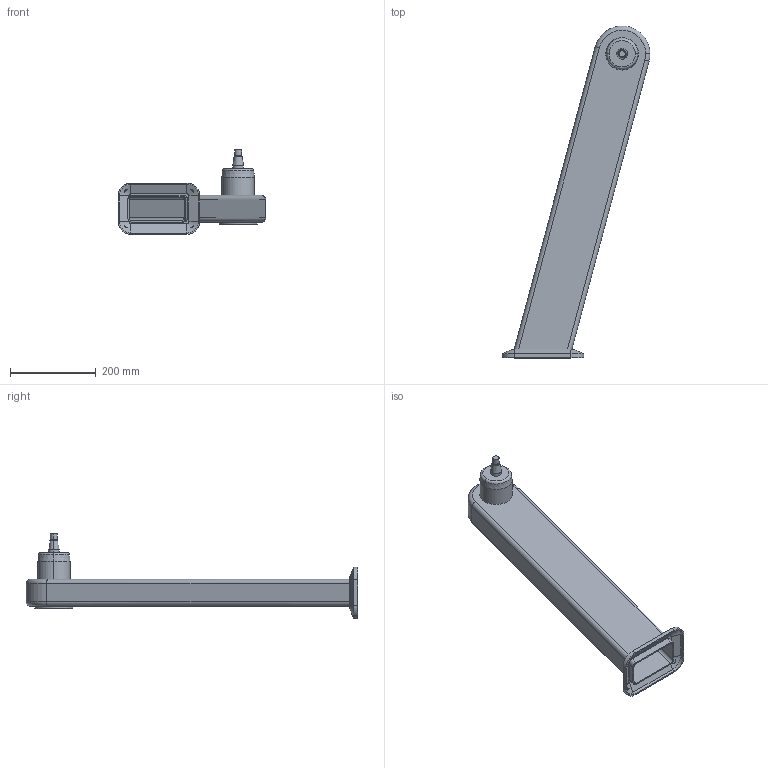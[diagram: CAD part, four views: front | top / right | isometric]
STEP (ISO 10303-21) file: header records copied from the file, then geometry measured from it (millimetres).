
FILE_DESCRIPTION (( 'STEP AP214' ), '1' );
FILE_NAME ('WP710_H710_+15.STEP', '2014-06-27T07:53:35', ( '' ), ( '' ), 'SwSTEP 2.0', 'SolidWorks 2014', '' );
FILE_SCHEMA (( 'AUTOMOTIVE_DESIGN' ));
Length unit declared in the file: millimetre
Products named in the file (1): WP710_H710_+15
Bounding box: 345.38 x 774.93 x 198 mm (x, y, z)
Volume: 1273508.2 mm3; surface area: 634166.5 mm2
Topology: 1 solids, 1 shells, 114 faces, 256 edges, 156 vertices
Faces by surface type: cylinder 42, plane 40, cone 20, torus 12
Entity records: 3285 total; most frequent: CARTESIAN_POINT 680, DIRECTION 570, ORIENTED_EDGE 512, EDGE_CURVE 256, AXIS2_PLACEMENT_3D 221, VERTEX_POINT 156, VECTOR 128, EDGE_LOOP 128
